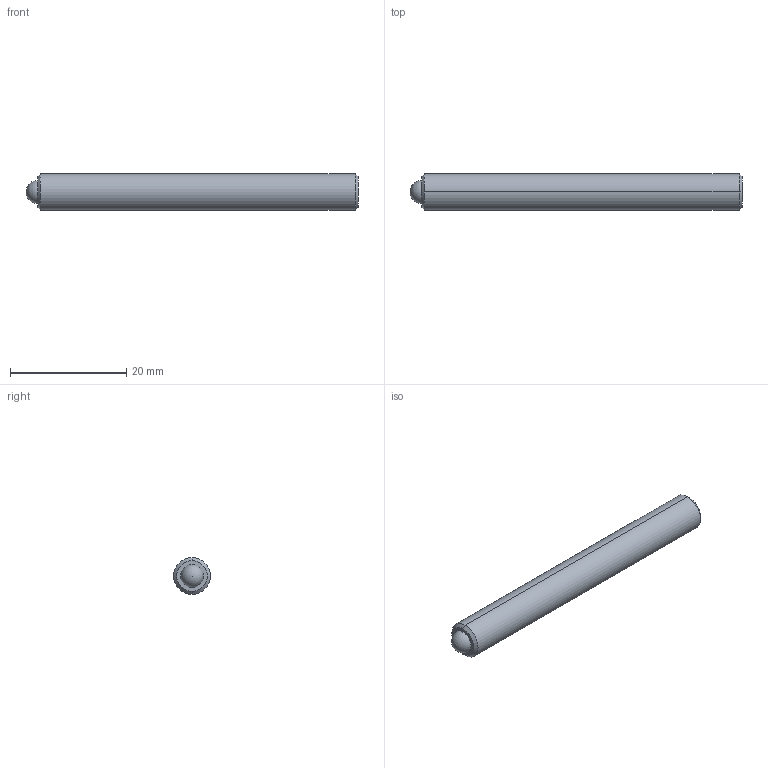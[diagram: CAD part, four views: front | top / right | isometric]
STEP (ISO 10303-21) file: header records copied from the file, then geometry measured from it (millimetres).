
FILE_DESCRIPTION (( 'STEP AP214' ), '1' );
FILE_NAME ('TS250-100-2250.STEP', '2013-02-13T13:49:26', ( 'workpc' ), ( 'Microsoft' ), 'SwSTEP 2.0', 'SolidWorks 2013', '' );
FILE_SCHEMA (( 'AUTOMOTIVE_DESIGN' ));
Length unit declared in the file: inch
Products named in the file (1): TS250-100-2250
Bounding box: 57.15 x 6.35 x 6.35 mm (x, y, z)
Volume: 1739.2 mm3; surface area: 1244.3 mm2
Topology: 2 solids, 2 shells, 20 faces, 45 edges, 29 vertices
Faces by surface type: plane 10, cylinder 4, cone 4, sphere 2
Entity records: 599 total; most frequent: DIRECTION 96, CARTESIAN_POINT 87, ORIENTED_EDGE 80, EDGE_CURVE 40, AXIS2_PLACEMENT_3D 35, VECTOR 26, LINE 26, VERTEX_POINT 26
